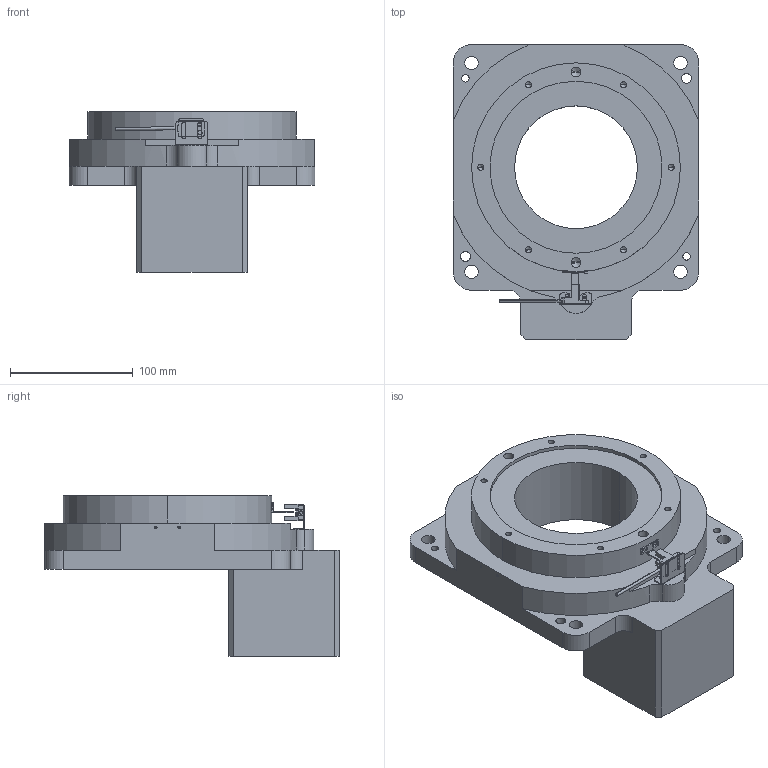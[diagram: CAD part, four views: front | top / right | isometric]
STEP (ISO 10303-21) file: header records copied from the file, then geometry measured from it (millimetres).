
FILE_DESCRIPTION (( 'STEP AP203' ), '1' );
FILE_NAME ('RTN200-10K-19-70-90-M6(ÐÐÐÇ).STEP', '2024-05-21T10:20:31', ( '' ), ( '' ), 'SwSTEP 2.0', 'SolidWorks 2023', '' );
FILE_SCHEMA (( 'CONFIG_CONTROL_DESIGN' ));
Length unit declared in the file: millimetre
Products named in the file (1): RTN200-10K-19-70-90-M6(行星)
Bounding box: 200 x 240 x 131 mm (x, y, z)
Volume: 1953671.8 mm3; surface area: 171028.6 mm2
Topology: 4 solids, 10 shells, 290 faces, 755 edges, 463 vertices
Faces by surface type: cylinder 127, plane 115, cone 48
Entity records: 8675 total; most frequent: DIRECTION 1546, CARTESIAN_POINT 1461, ORIENTED_EDGE 1414, EDGE_CURVE 707, AXIS2_PLACEMENT_3D 548, VERTEX_POINT 463, LINE 450, VECTOR 450
